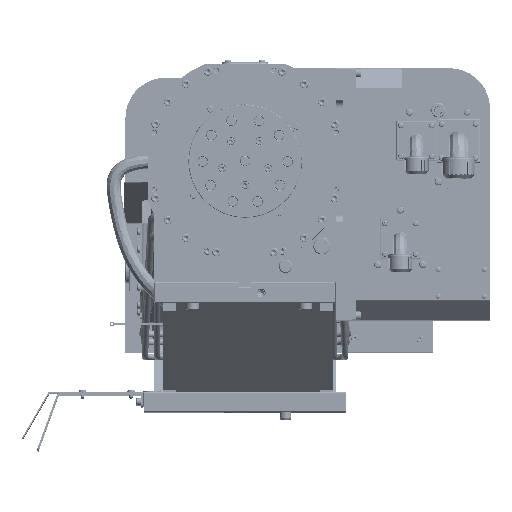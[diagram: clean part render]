
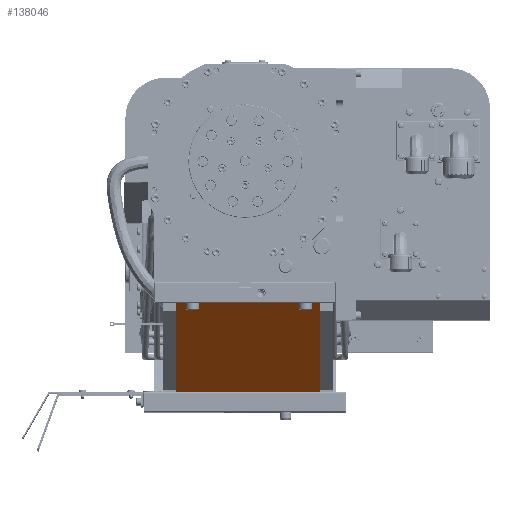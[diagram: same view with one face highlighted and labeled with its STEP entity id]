
A CAD part, top view. The second image highlights one B-rep face of the part: STEP entity #138046.
In plain terms, the highlighted planar face has unit normal (0, -0.723, 0.691) as drawn and (-0.691, -0.723, 0) by its records, which use the part's own axes.
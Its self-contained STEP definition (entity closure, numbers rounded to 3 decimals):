
#34918 = CARTESIAN_POINT ( 'NONE',  ( -354.629, 135., 43. ) ) ;
#44031 = DIRECTION ( 'NONE',  ( 0., 0., 1. ) ) ;
#64576 = LINE ( 'NONE', #229710, #369891 ) ;
#85420 = ORIENTED_EDGE ( 'NONE', *, *, #447354, .T. ) ;
#90317 = CARTESIAN_POINT ( 'NONE',  ( -239.734, 25.1, 43. ) ) ;
#103953 = ORIENTED_EDGE ( 'NONE', *, *, #347814, .F. ) ;
#113637 = AXIS2_PLACEMENT_3D ( 'NONE', #117802, #244973, #290969 ) ;
#117802 = CARTESIAN_POINT ( 'NONE',  ( -239.734, 25.1, -294.7 ) ) ;
#138046 = ADVANCED_FACE ( 'NONE', ( #282909 ), #366961, .T. ) ;
#155777 = LINE ( 'NONE', #321010, #382143 ) ;
#160681 = CARTESIAN_POINT ( 'NONE',  ( -354.629, 135., -141.313 ) ) ;
#184788 = CARTESIAN_POINT ( 'NONE',  ( -239.734, 25.1, -136. ) ) ;
#195414 = DIRECTION ( 'NONE',  ( 0.723, -0.691, 0. ) ) ;
#210240 = VERTEX_POINT ( 'NONE', #34918 ) ;
#222983 = ORIENTED_EDGE ( 'NONE', *, *, #239088, .T. ) ;
#229710 = CARTESIAN_POINT ( 'NONE',  ( -239.734, 25.1, 43. ) ) ;
#239088 = EDGE_CURVE ( 'NONE', #369847, #210240, #64576, .T. ) ;
#243148 = VECTOR ( 'NONE', #195414, 1000. ) ;
#244973 = DIRECTION ( 'NONE',  ( -0.691, -0.723, 0. ) ) ;
#250246 = VECTOR ( 'NONE', #44031, 1000. ) ;
#274006 = LINE ( 'NONE', #184788, #243148 ) ;
#282909 = FACE_OUTER_BOUND ( 'NONE', #368550, .T. ) ;
#290969 = DIRECTION ( 'NONE',  ( 0.723, -0.691, 0. ) ) ;
#315694 = ORIENTED_EDGE ( 'NONE', *, *, #333639, .T. ) ;
#321010 = CARTESIAN_POINT ( 'NONE',  ( -239.734, 25.1, -141.313 ) ) ;
#333639 = EDGE_CURVE ( 'NONE', #519146, #369847, #155777, .T. ) ;
#347814 = EDGE_CURVE ( 'NONE', #475223, #210240, #488722, .T. ) ;
#366961 = PLANE ( 'NONE',  #113637 ) ;
#368550 = EDGE_LOOP ( 'NONE', ( #222983, #103953, #85420, #315694 ) ) ;
#369847 = VERTEX_POINT ( 'NONE', #90317 ) ;
#369891 = VECTOR ( 'NONE', #514593, 1000. ) ;
#382143 = VECTOR ( 'NONE', #486465, 1000. ) ;
#444141 = CARTESIAN_POINT ( 'NONE',  ( -239.734, 25.1, -136. ) ) ;
#447354 = EDGE_CURVE ( 'NONE', #475223, #519146, #274006, .T. ) ;
#475223 = VERTEX_POINT ( 'NONE', #521656 ) ;
#486465 = DIRECTION ( 'NONE',  ( 0., 0., 1. ) ) ;
#488722 = LINE ( 'NONE', #160681, #250246 ) ;
#514593 = DIRECTION ( 'NONE',  ( -0.723, 0.691, 0. ) ) ;
#519146 = VERTEX_POINT ( 'NONE', #444141 ) ;
#521656 = CARTESIAN_POINT ( 'NONE',  ( -354.629, 135., -136. ) ) ;
